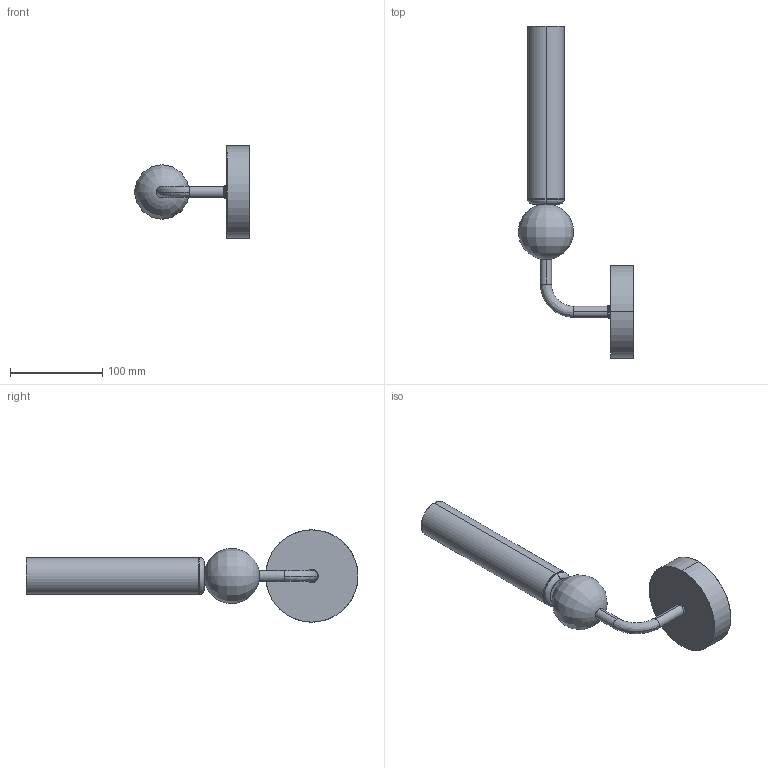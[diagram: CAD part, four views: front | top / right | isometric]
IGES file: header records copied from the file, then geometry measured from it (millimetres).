
Start section: SolidWorks IGES file using analytic representation for surfaces
Global section: file name: F:\燠隴矨\3D\2026-5\Marble Vertical Wall Lamp-D10xH36cm-A.IGS,15; native system: HSolidWorks 2022; preprocessor: SolidWorks 2022; author: MyPC; date: 260512.170820; units: millimetre
Bounding box: 125 x 359.77 x 100 mm (x, y, z)
Surface area: 109535.2 mm2 (no closed solid volume)
Topology: 0 solids, 0 shells, 235 faces, 2719 edges, 2717 vertices
Faces by surface type: bspline 175, revolution 60
